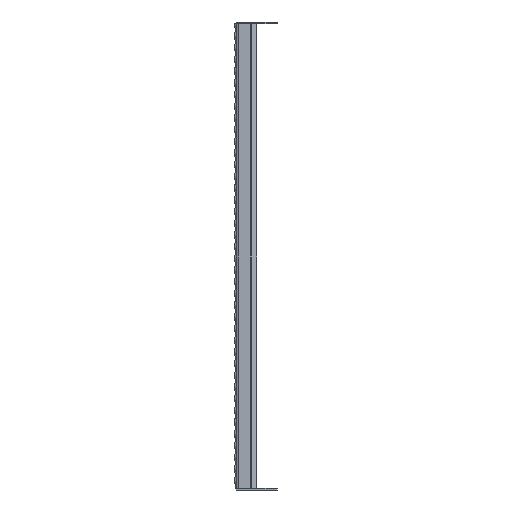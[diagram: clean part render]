
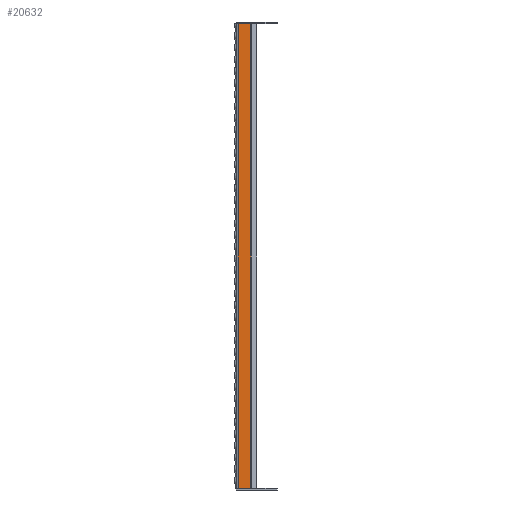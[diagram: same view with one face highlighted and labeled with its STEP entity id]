
A CAD part, left-side view. The second image highlights one B-rep face of the part: STEP entity #20632.
In plain terms, the highlighted planar face has unit normal (-1, 0, 0).
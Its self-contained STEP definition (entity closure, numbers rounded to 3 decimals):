
#2115=FACE_OUTER_BOUND('',#3500,.T.);
#3500=EDGE_LOOP('',(#16321,#16322,#16323,#16324));
#4881=LINE('',#35774,#7207);
#4892=LINE('',#35804,#7218);
#4902=LINE('',#35827,#7228);
#4909=LINE('',#35842,#7235);
#7207=VECTOR('',#25926,10.);
#7218=VECTOR('',#25951,10.);
#7228=VECTOR('',#25973,10.);
#7235=VECTOR('',#25992,10.);
#9616=VERTEX_POINT('',#35771);
#9617=VERTEX_POINT('',#35773);
#9629=VERTEX_POINT('',#35803);
#9636=VERTEX_POINT('',#35826);
#11987=EDGE_CURVE('',#9617,#9616,#4881,.T.);
#12002=EDGE_CURVE('',#9616,#9629,#4892,.T.);
#12014=EDGE_CURVE('',#9636,#9617,#4902,.T.);
#12022=EDGE_CURVE('',#9629,#9636,#4909,.T.);
#16321=ORIENTED_EDGE('',*,*,#12002,.T.);
#16322=ORIENTED_EDGE('',*,*,#12022,.T.);
#16323=ORIENTED_EDGE('',*,*,#12014,.T.);
#16324=ORIENTED_EDGE('',*,*,#11987,.T.);
#19409=PLANE('',#22357);
#20632=ADVANCED_FACE('',(#2115),#19409,.T.);
#22357=AXIS2_PLACEMENT_3D('',#35843,#25993,#25994);
#25926=DIRECTION('',(0.,1.,0.));
#25951=DIRECTION('',(0.,0.,-1.));
#25973=DIRECTION('',(0.,0.,1.));
#25992=DIRECTION('',(0.,-1.,0.));
#25993=DIRECTION('center_axis',(-1.,0.,0.));
#25994=DIRECTION('ref_axis',(0.,0.,1.));
#35771=CARTESIAN_POINT('',(0.,-3.25,794.));
#35773=CARTESIAN_POINT('',(0.,-24.427,794.));
#35774=CARTESIAN_POINT('',(0.,0.,794.));
#35803=CARTESIAN_POINT('',(0.,-3.25,0.));
#35804=CARTESIAN_POINT('',(0.,-3.25,0.));
#35826=CARTESIAN_POINT('',(0.,-24.427,0.));
#35827=CARTESIAN_POINT('',(0.,-24.427,198.5));
#35842=CARTESIAN_POINT('',(0.,0.,0.));
#35843=CARTESIAN_POINT('Origin',(0.,-25.,0.));
